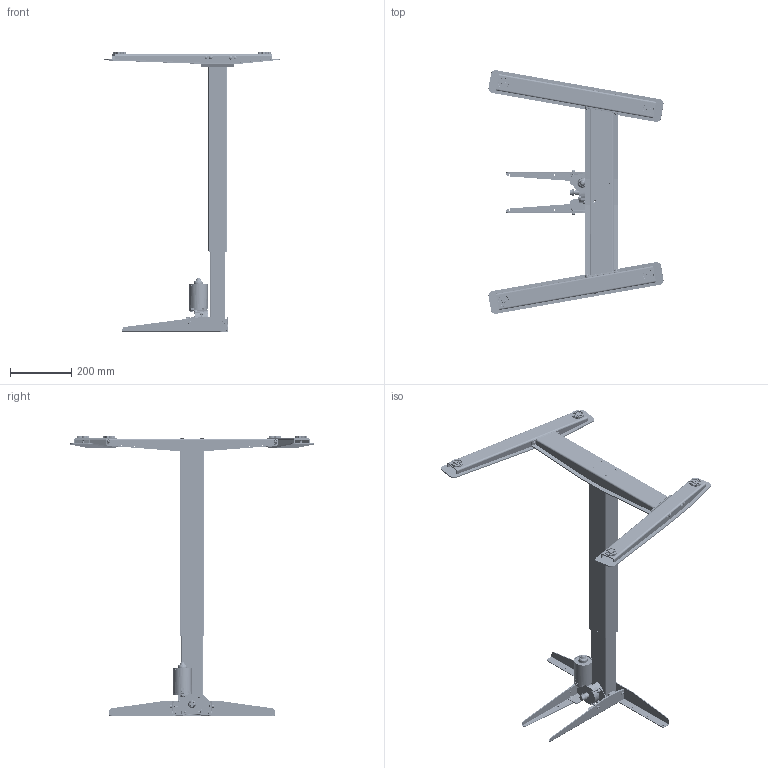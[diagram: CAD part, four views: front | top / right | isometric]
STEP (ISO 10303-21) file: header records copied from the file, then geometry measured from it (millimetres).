
FILE_DESCRIPTION (( 'STEP AP203' ), '1' );
FILE_NAME ('Hjemmeside RenderingerTech-draw_501-9_XX080.STEP', '2023-10-30T14:07:25', ( '' ), ( '' ), 'SwSTEP 2.0', 'SolidWorks 2023', '' );
FILE_SCHEMA (( 'CONFIG_CONTROL_DESIGN' ));
Length unit declared in the file: millimetre
Products named in the file (66): 355130; 346810; 359250; 301890_Bend 3; 356480; 346840; 141560; 353370; 359170; 357890; 346780; 324520; 142850; 358760; 345880; 345090; 359310_Versjk; 160270_501-9 7W080; 356730; 320130; 359480_Simplify_1; 355140_Buk total; 157660; 346790; 355270; 358960; 357630_Simplify_1; 154850_Right; 341800_silver; 600470; 142830; 157800_For desk file; 322650_bench; 346760; 356730_¨front; 355160; 357850; 157530; 346740; 356730_side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
Assembly tree (113 placements, depth 6):
  Part1^154860
  Hjemmeside RenderingerTech-draw_501-9_XX080
    160270_501-9 7W080
      157520_Shell
        157530
          358960
          345090
        341800_silver  x4
        141560  x2
          322650_bench
          301890_Bend 3
          345880
        306980  x4
        314130  x2
        157540_shell view
          158320_Shell
            358970_Shell
          157660
            359250
            359310_Versjk  x2
            345000
            359170
        358760  x2
        157800_For desk file
          346140
          320130
          600470
          142830
            346740
            346730
            346750
          314130  x4
          142840
            346760
            346770
          346780  x2
          142850
            346820  x2
            346850
            346810  x2
            346830
            346840
          346790  x2
          346800
          321760
          346900
          353370
        357890  x2
        359480_Simplify_1  x2
        357630_Simplify_1  x2
      154870_mounting intruction 1
        154850_Right  x2
          355280_VENSTRE 
          355120
        154860
          355140_Buk total
          355130
          356730  x2
          356730_¨front  x3
          356730_side  x2
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Bounding box: 570.11 x 793.3 x 910.96 mm (x, y, z)
Volume: 2377839.5 mm3; surface area: 1737467.3 mm2
Topology: 106 solids, 106 shells, 6735 faces, 17372 edges, 11105 vertices
Faces by surface type: plane 3576, cylinder 1650, bspline 931, cone 364, torus 194, sphere 20
Full cylindrical faces by diameter (mm): 1.2 x12, 1.8 x1, 1.9 x6, 2 x10, 2.2 x2, 2.3 x4, 2.5 x2, 2.8 x4, 3 x7, 3.1 x2, 3.5 x2, 3.8 x2, 4 x41, 4.1 x1, 4.3 x4, 4.5 x3, 4.98 x2, 5 x35, 5.2 x1, 5.5 x1, 6 x10, 6.1 x2, 6.5 x20, 7.2 x1, 7.5 x6, 7.9 x2, 8 x4, 8.2 x2, 8.5 x8, 8.8 x1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
Entity records: 216653 total; most frequent: CARTESIAN_POINT 100556, ORIENTED_EDGE 24054, DIRECTION 19607, EDGE_CURVE 12027, VERTEX_POINT 7863, AXIS2_PLACEMENT_3D 6659, LINE 6289, VECTOR 6289
